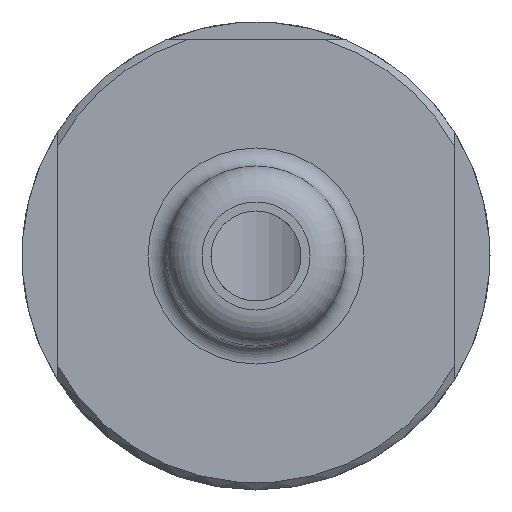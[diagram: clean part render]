
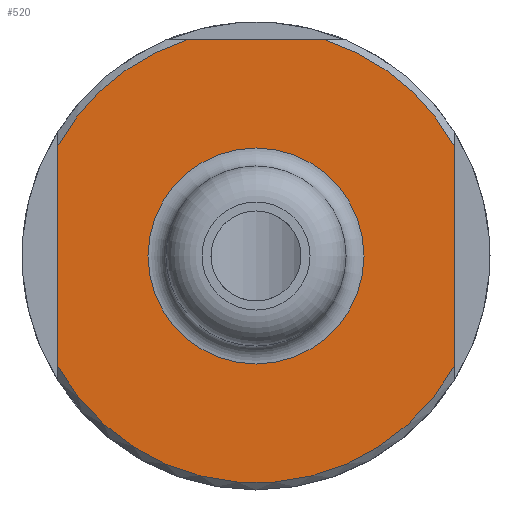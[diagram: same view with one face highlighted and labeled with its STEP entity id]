
A CAD part, front view. The second image highlights one B-rep face of the part: STEP entity #520.
In plain terms, the highlighted planar face has unit normal (0, -1, 0).
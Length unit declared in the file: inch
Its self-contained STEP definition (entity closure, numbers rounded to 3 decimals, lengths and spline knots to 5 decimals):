
#49=FACE_BOUND('',#114,.T.);
#76=FACE_OUTER_BOUND('',#113,.T.);
#113=EDGE_LOOP('',(#418,#419,#420,#421,#422,#423));
#114=EDGE_LOOP('',(#424));
#143=LINE('',#800,#169);
#157=LINE('',#915,#183);
#159=LINE('',#923,#185);
#169=VECTOR('',#632,0.3937);
#183=VECTOR('',#696,0.3937);
#185=VECTOR('',#702,0.3937);
#204=CIRCLE('',#569,0.63);
#212=CIRCLE('',#587,0.63);
#213=CIRCLE('',#588,0.63);
#214=CIRCLE('',#589,0.3);
#230=VERTEX_POINT('',#794);
#232=VERTEX_POINT('',#799);
#246=VERTEX_POINT('',#835);
#259=VERTEX_POINT('',#906);
#260=VERTEX_POINT('',#911);
#261=VERTEX_POINT('',#918);
#262=VERTEX_POINT('',#928);
#281=EDGE_CURVE('',#232,#230,#143,.T.);
#299=EDGE_CURVE('',#232,#246,#204,.T.);
#318=EDGE_CURVE('',#259,#260,#157,.T.);
#321=EDGE_CURVE('',#261,#246,#159,.T.);
#322=EDGE_CURVE('',#259,#230,#212,.T.);
#323=EDGE_CURVE('',#261,#260,#213,.T.);
#324=EDGE_CURVE('',#262,#262,#214,.T.);
#418=ORIENTED_EDGE('',*,*,#281,.T.);
#419=ORIENTED_EDGE('',*,*,#322,.F.);
#420=ORIENTED_EDGE('',*,*,#318,.T.);
#421=ORIENTED_EDGE('',*,*,#323,.F.);
#422=ORIENTED_EDGE('',*,*,#321,.T.);
#423=ORIENTED_EDGE('',*,*,#299,.F.);
#424=ORIENTED_EDGE('',*,*,#324,.F.);
#504=PLANE('',#586);
#520=ADVANCED_FACE('',(#76,#49),#504,.T.);
#569=AXIS2_PLACEMENT_3D('',#836,#662,#663);
#586=AXIS2_PLACEMENT_3D('',#925,#705,#706);
#587=AXIS2_PLACEMENT_3D('',#926,#707,#708);
#588=AXIS2_PLACEMENT_3D('',#927,#709,#710);
#589=AXIS2_PLACEMENT_3D('',#929,#711,#712);
#632=DIRECTION('',(-1.,0.,0.));
#662=DIRECTION('center_axis',(0.,1.,0.));
#663=DIRECTION('ref_axis',(0.,0.,-1.));
#696=DIRECTION('',(0.,0.,-1.));
#702=DIRECTION('',(0.,0.,1.));
#705=DIRECTION('center_axis',(0.,-1.,0.));
#706=DIRECTION('ref_axis',(0.,0.,-1.));
#707=DIRECTION('center_axis',(0.,1.,0.));
#708=DIRECTION('ref_axis',(0.,0.,-1.));
#709=DIRECTION('center_axis',(0.,1.,0.));
#710=DIRECTION('ref_axis',(0.,0.,-1.));
#711=DIRECTION('center_axis',(0.,-1.,0.));
#712=DIRECTION('ref_axis',(0.,0.,-1.));
#794=CARTESIAN_POINT('',(-0.19209,1.2,0.6));
#799=CARTESIAN_POINT('',(0.19209,1.2,0.6));
#800=CARTESIAN_POINT('',(0.125,1.2,0.6));
#835=CARTESIAN_POINT('',(0.55,1.2,0.30725));
#836=CARTESIAN_POINT('Origin',(0.,1.2,0.));
#906=CARTESIAN_POINT('',(-0.55,1.2,0.30725));
#911=CARTESIAN_POINT('',(-0.55,1.2,-0.30725));
#915=CARTESIAN_POINT('',(-0.55,1.2,0.575));
#918=CARTESIAN_POINT('',(0.55,1.2,-0.30725));
#923=CARTESIAN_POINT('',(0.55,1.2,0.075));
#925=CARTESIAN_POINT('Origin',(0.,1.2,0.65));
#926=CARTESIAN_POINT('Origin',(0.,1.2,0.));
#927=CARTESIAN_POINT('Origin',(0.,1.2,0.));
#928=CARTESIAN_POINT('',(0.,1.2,-0.3));
#929=CARTESIAN_POINT('Origin',(0.,1.2,0.));
